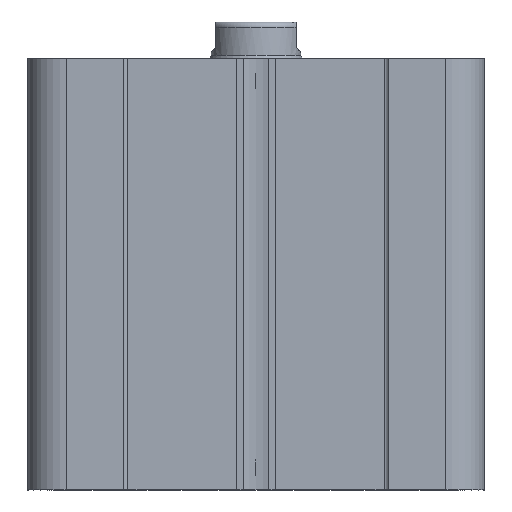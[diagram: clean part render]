
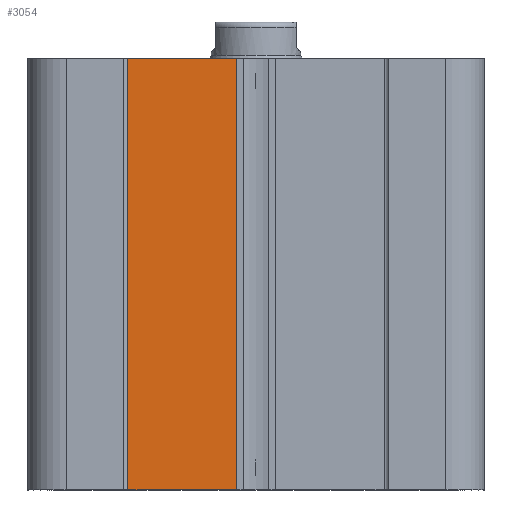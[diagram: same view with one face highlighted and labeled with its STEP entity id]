
A CAD part, front view. The second image highlights one B-rep face of the part: STEP entity #3054.
In plain terms, the highlighted planar face has unit normal (0, -1, 0).
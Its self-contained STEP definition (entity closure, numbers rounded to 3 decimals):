
#197 = DIRECTION ( 'NONE',  ( 0., 0., -1. ) ) ;
#294 = VECTOR ( 'NONE', #2376, 1000. ) ;
#540 = PLANE ( 'NONE',  #10667 ) ;
#1138 = DIRECTION ( 'NONE',  ( 1., 0., 0. ) ) ;
#1286 = LINE ( 'NONE', #6973, #3445 ) ;
#2289 = CARTESIAN_POINT ( 'NONE',  ( -34.75, -60.5, 0. ) ) ;
#2376 = DIRECTION ( 'NONE',  ( 1., 0., 0. ) ) ;
#2528 = VECTOR ( 'NONE', #7902, 1000. ) ;
#3021 = CARTESIAN_POINT ( 'NONE',  ( -5.25, -60.5, 117. ) ) ;
#3054 = ADVANCED_FACE ( 'NONE', ( #6024 ), #540, .F. ) ;
#3445 = VECTOR ( 'NONE', #1138, 1000. ) ;
#4720 = CARTESIAN_POINT ( 'NONE',  ( -34.75, -60.5, 117. ) ) ;
#4826 = CARTESIAN_POINT ( 'NONE',  ( -5.25, -60.5, 0. ) ) ;
#5097 = VERTEX_POINT ( 'NONE', #11307 ) ;
#5585 = EDGE_CURVE ( 'NONE', #5097, #6762, #8199, .T. ) ;
#5606 = CARTESIAN_POINT ( 'NONE',  ( -34.75, -60.5, 0. ) ) ;
#6024 = FACE_OUTER_BOUND ( 'NONE', #11946, .T. ) ;
#6258 = LINE ( 'NONE', #2289, #294 ) ;
#6508 = EDGE_CURVE ( 'NONE', #5097, #12278, #1286, .T. ) ;
#6548 = EDGE_CURVE ( 'NONE', #12278, #10169, #8837, .T. ) ;
#6762 = VERTEX_POINT ( 'NONE', #5606 ) ;
#6973 = CARTESIAN_POINT ( 'NONE',  ( -34.75, -60.5, 117. ) ) ;
#7148 = CARTESIAN_POINT ( 'NONE',  ( -5.25, -60.5, 117. ) ) ;
#7380 = ORIENTED_EDGE ( 'NONE', *, *, #10395, .T. ) ;
#7605 = DIRECTION ( 'NONE',  ( 0., 1., 0. ) ) ;
#7876 = ORIENTED_EDGE ( 'NONE', *, *, #5585, .T. ) ;
#7902 = DIRECTION ( 'NONE',  ( 0., 0., -1. ) ) ;
#8199 = LINE ( 'NONE', #12815, #2528 ) ;
#8592 = ORIENTED_EDGE ( 'NONE', *, *, #6548, .F. ) ;
#8718 = ORIENTED_EDGE ( 'NONE', *, *, #6508, .F. ) ;
#8837 = LINE ( 'NONE', #7148, #12260 ) ;
#10169 = VERTEX_POINT ( 'NONE', #4826 ) ;
#10395 = EDGE_CURVE ( 'NONE', #6762, #10169, #6258, .T. ) ;
#10667 = AXIS2_PLACEMENT_3D ( 'NONE', #4720, #7605, #10690 ) ;
#10690 = DIRECTION ( 'NONE',  ( -1., 0., 0. ) ) ;
#11307 = CARTESIAN_POINT ( 'NONE',  ( -34.75, -60.5, 117. ) ) ;
#11946 = EDGE_LOOP ( 'NONE', ( #7380, #8592, #8718, #7876 ) ) ;
#12260 = VECTOR ( 'NONE', #197, 1000. ) ;
#12278 = VERTEX_POINT ( 'NONE', #3021 ) ;
#12815 = CARTESIAN_POINT ( 'NONE',  ( -34.75, -60.5, 117. ) ) ;
